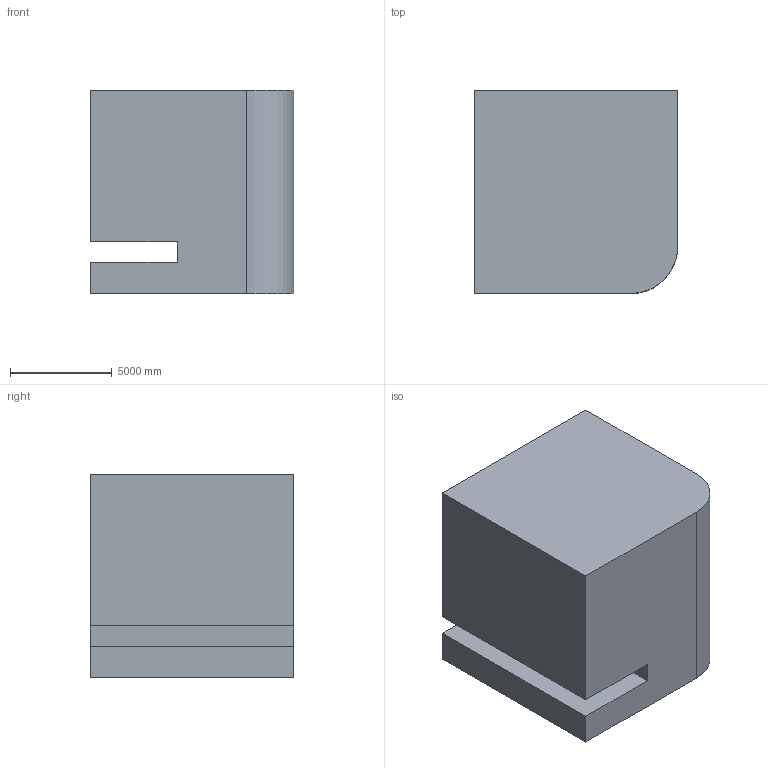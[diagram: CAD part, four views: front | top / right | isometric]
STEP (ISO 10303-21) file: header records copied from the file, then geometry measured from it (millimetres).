
FILE_DESCRIPTION (( 'STEP AP203' ), '1' );
FILE_NAME ('122.STEP', '2022-09-06T13:19:23', ( 'user' ), ( '' ), 'SwSTEP 2.0', 'SolidWorks 2021', '' );
FILE_SCHEMA (( 'CONFIG_CONTROL_DESIGN' ));
Length unit declared in the file: centimetre
Products named in the file (1): 122
Bounding box: 10000 x 10000 x 10000 mm (x, y, z)
Volume: 946098874002.8 mm3; surface area: 666596582.5 mm2
Topology: 1 solids, 1 shells, 15 faces, 36 edges, 24 vertices
Faces by surface type: plane 14, cylinder 1
Entity records: 509 total; most frequent: CARTESIAN_POINT 76, ORIENTED_EDGE 72, DIRECTION 70, EDGE_CURVE 36, LINE 34, VECTOR 34, VERTEX_POINT 24, AXIS2_PLACEMENT_3D 18
